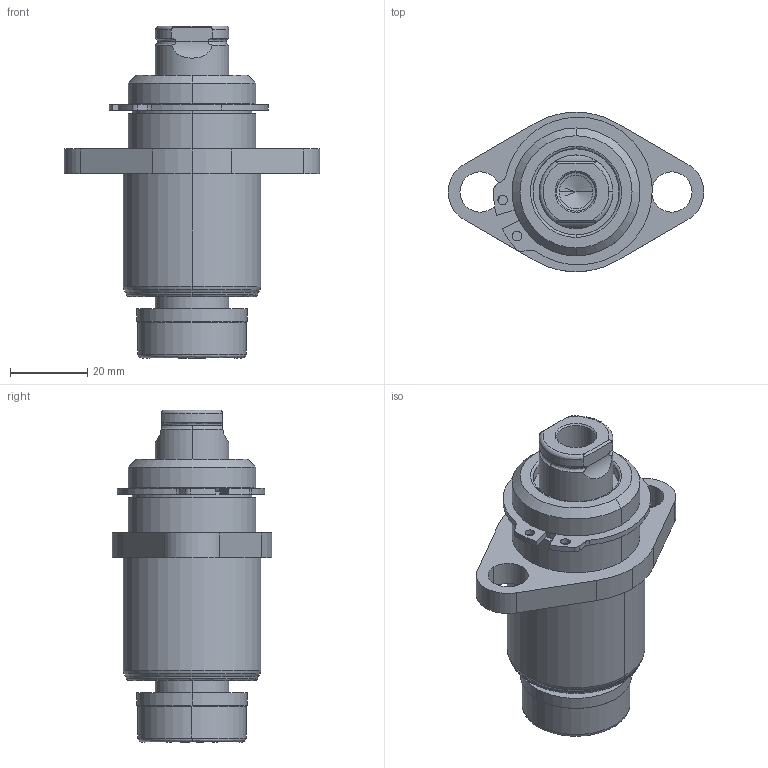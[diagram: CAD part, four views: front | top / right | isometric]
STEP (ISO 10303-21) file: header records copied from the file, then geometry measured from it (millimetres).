
FILE_DESCRIPTION (( 'STEP AP214' ), '1' );
FILE_NAME ('GK75-N2-1-TB-M-XXX.STEP', '2020-09-21T11:17:28', ( '' ), ( '' ), 'SwSTEP 2.0', 'SolidWorks 2017', '' );
FILE_SCHEMA (( 'AUTOMOTIVE_DESIGN' ));
Length unit declared in the file: inch
Products named in the file (7): GK0.75-N2-1-TB-Base; GK75-M-XXX-GuidePin; RetainingRing; GK0.75-N2-1-TB; GK75-N2-1-TB-M-XXX; GK75-DampeningWasher
Assembly tree (6 placements, depth 3):
  GK75-N2-1-TB-M-XXX
    GK0.75-N2-1-TB
      GK0.75-N2-1-TB-Base
      RetainingRing
    GK75-M-XXX-GuidePin
      GK75-DampeningWasher
      GK75-M-XXX-GuidePin
Bounding box: 66.04 x 41.27 x 85.72 mm (x, y, z)
Volume: 67915.7 mm3; surface area: 22734.7 mm2
Topology: 4 solids, 4 shells, 116 faces, 284 edges, 181 vertices
Faces by surface type: cylinder 57, plane 26, bspline 21, cone 12
Entity records: 4325 total; most frequent: CARTESIAN_POINT 1206, DIRECTION 609, ORIENTED_EDGE 564, EDGE_CURVE 282, AXIS2_PLACEMENT_3D 254, VERTEX_POINT 181, CIRCLE 148, EDGE_LOOP 135
